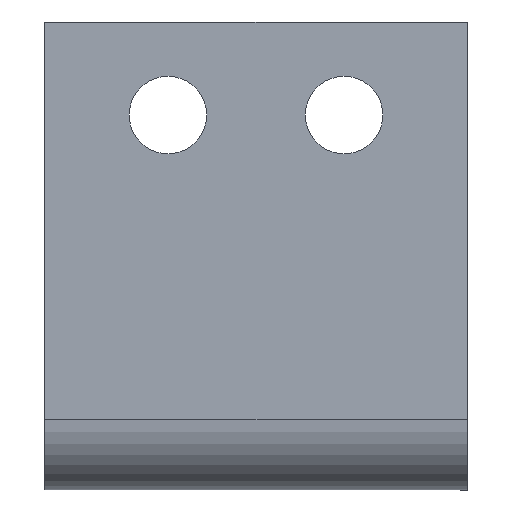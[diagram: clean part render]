
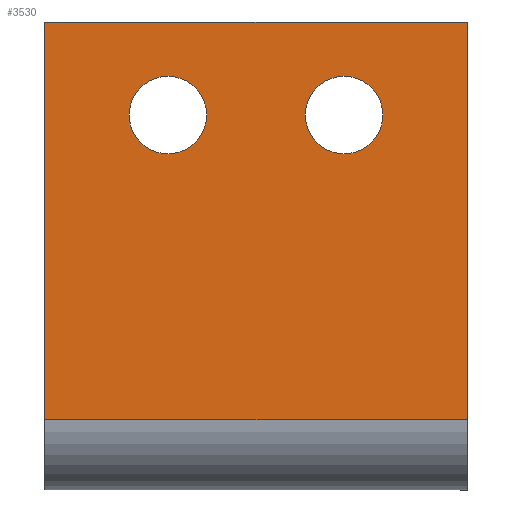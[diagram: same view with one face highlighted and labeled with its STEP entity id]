
A CAD part, front view. The second image highlights one B-rep face of the part: STEP entity #3530.
In plain terms, the highlighted planar face has unit normal (0, -1, 0).
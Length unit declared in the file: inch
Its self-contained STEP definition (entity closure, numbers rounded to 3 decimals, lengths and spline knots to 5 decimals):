
#769 = CARTESIAN_POINT ( 'NONE',  ( 0.33, 0., 0.45 ) ) ;
#770 = CARTESIAN_POINT ( 'NONE',  ( 0.33, 0., 0.175 ) ) ;
#771 = DIRECTION ( 'NONE',  ( 0., 0., -1. ) ) ;
#772 = DIRECTION ( 'NONE',  ( 0., 1., 0. ) ) ;
#773 = AXIS2_PLACEMENT_3D ( 'NONE', #779, #772, #771 ) ;
#774 = CIRCLE ( 'NONE', #773, 0.1375 ) ;
#779 = CARTESIAN_POINT ( 'NONE',  ( 0.33, 0., 0.3125 ) ) ;
#838 = CARTESIAN_POINT ( 'NONE',  ( 0.33, 0., -0.175 ) ) ;
#839 = CARTESIAN_POINT ( 'NONE',  ( 0.33, 0., -0.45 ) ) ;
#840 = DIRECTION ( 'NONE',  ( 0., 0., 1. ) ) ;
#841 = DIRECTION ( 'NONE',  ( 0., 1., 0. ) ) ;
#842 = AXIS2_PLACEMENT_3D ( 'NONE', #847, #841, #840 ) ;
#843 = CIRCLE ( 'NONE', #842, 0.1375 ) ;
#847 = CARTESIAN_POINT ( 'NONE',  ( 0.33, 0., -0.3125 ) ) ;
#1308 = DIRECTION ( 'NONE',  ( 0., 1., 0. ) ) ;
#1309 = CARTESIAN_POINT ( 'NONE',  ( 0., 0., 0.75 ) ) ;
#1310 = AXIS2_PLACEMENT_3D ( 'NONE', #1309, #1308, #1370 ) ;
#1311 = PLANE ( 'NONE',  #1310 ) ;
#1312 = FACE_OUTER_BOUND ( 'NONE', #3631, .T. ) ;
#1313 = FACE_BOUND ( 'NONE', #3627, .T. ) ;
#1314 = FACE_BOUND ( 'NONE', #3531, .T. ) ;
#1347 = DIRECTION ( 'NONE',  ( 1., 0., 0. ) ) ;
#1348 = VECTOR ( 'NONE', #1347, 39.37008 ) ;
#1349 = CARTESIAN_POINT ( 'NONE',  ( 0., 0., 0.75 ) ) ;
#1350 = LINE ( 'NONE', #1349, #1348 ) ;
#1351 = CARTESIAN_POINT ( 'NONE',  ( 1.41, 0., 0.75 ) ) ;
#1352 = DIRECTION ( 'NONE',  ( 0., 0., 1. ) ) ;
#1353 = VECTOR ( 'NONE', #1352, 39.37008 ) ;
#1354 = CARTESIAN_POINT ( 'NONE',  ( 1.41, 0., 0.75 ) ) ;
#1355 = LINE ( 'NONE', #1354, #1353 ) ;
#1356 = CARTESIAN_POINT ( 'NONE',  ( 1.41, 0., -0.75 ) ) ;
#1357 = DIRECTION ( 'NONE',  ( 1., 0., 0. ) ) ;
#1358 = VECTOR ( 'NONE', #1357, 39.37008 ) ;
#1359 = CARTESIAN_POINT ( 'NONE',  ( 0., 0., -0.75 ) ) ;
#1360 = LINE ( 'NONE', #1359, #1358 ) ;
#1365 = DIRECTION ( 'NONE',  ( 0., 0., -1. ) ) ;
#1366 = DIRECTION ( 'NONE',  ( 0., 1., 0. ) ) ;
#1367 = CARTESIAN_POINT ( 'NONE',  ( 0.33, 0., 0.3125 ) ) ;
#1368 = AXIS2_PLACEMENT_3D ( 'NONE', #1367, #1366, #1365 ) ;
#1369 = CIRCLE ( 'NONE', #1368, 0.1375 ) ;
#1370 = DIRECTION ( 'NONE',  ( 0., 0., 1. ) ) ;
#1404 = CARTESIAN_POINT ( 'NONE',  ( 0., 0., 0.75 ) ) ;
#1405 = LINE ( 'NONE', #1404, #1467 ) ;
#1406 = CARTESIAN_POINT ( 'NONE',  ( 0., 0., 0.75 ) ) ;
#1466 = DIRECTION ( 'NONE',  ( 0., 0., -1. ) ) ;
#1467 = VECTOR ( 'NONE', #1466, 39.37008 ) ;
#1480 = CARTESIAN_POINT ( 'NONE',  ( 0., 0., -0.75 ) ) ;
#1481 = DIRECTION ( 'NONE',  ( 0., 0., 1. ) ) ;
#1482 = DIRECTION ( 'NONE',  ( 0., 1., 0. ) ) ;
#1483 = CARTESIAN_POINT ( 'NONE',  ( 0.33, 0., -0.3125 ) ) ;
#1484 = AXIS2_PLACEMENT_3D ( 'NONE', #1483, #1482, #1481 ) ;
#1489 = CIRCLE ( 'NONE', #1484, 0.1375 ) ;
#3193 = EDGE_CURVE ( 'NONE', #3194, #3195, #774, .T. ) ;
#3194 = VERTEX_POINT ( 'NONE', #770 ) ;
#3195 = VERTEX_POINT ( 'NONE', #769 ) ;
#3227 = EDGE_CURVE ( 'NONE', #3228, #3229, #843, .T. ) ;
#3228 = VERTEX_POINT ( 'NONE', #839 ) ;
#3229 = VERTEX_POINT ( 'NONE', #838 ) ;
#3530 = ADVANCED_FACE ( 'NONE', ( #1314, #1313, #1312 ), #1311, .F. ) ;
#3531 = EDGE_LOOP ( 'NONE', ( #3532, #3534 ) ) ;
#3532 = ORIENTED_EDGE ( 'NONE', *, *, #3533, .T. ) ;
#3533 = EDGE_CURVE ( 'NONE', #3195, #3194, #1369, .T. ) ;
#3534 = ORIENTED_EDGE ( 'NONE', *, *, #3193, .T. ) ;
#3536 = EDGE_CURVE ( 'NONE', #3633, #3537, #1360, .T. ) ;
#3537 = VERTEX_POINT ( 'NONE', #1356 ) ;
#3538 = ORIENTED_EDGE ( 'NONE', *, *, #3539, .T. ) ;
#3539 = EDGE_CURVE ( 'NONE', #3537, #3540, #1355, .T. ) ;
#3540 = VERTEX_POINT ( 'NONE', #1351 ) ;
#3541 = ORIENTED_EDGE ( 'NONE', *, *, #3542, .F. ) ;
#3542 = EDGE_CURVE ( 'NONE', #3579, #3540, #1350, .T. ) ;
#3579 = VERTEX_POINT ( 'NONE', #1406 ) ;
#3580 = ORIENTED_EDGE ( 'NONE', *, *, #3581, .T. ) ;
#3581 = EDGE_CURVE ( 'NONE', #3579, #3633, #1405, .T. ) ;
#3627 = EDGE_LOOP ( 'NONE', ( #3628, #3630 ) ) ;
#3628 = ORIENTED_EDGE ( 'NONE', *, *, #3629, .T. ) ;
#3629 = EDGE_CURVE ( 'NONE', #3229, #3228, #1489, .T. ) ;
#3630 = ORIENTED_EDGE ( 'NONE', *, *, #3227, .T. ) ;
#3631 = EDGE_LOOP ( 'NONE', ( #3632, #3538, #3541, #3580 ) ) ;
#3632 = ORIENTED_EDGE ( 'NONE', *, *, #3536, .T. ) ;
#3633 = VERTEX_POINT ( 'NONE', #1480 ) ;
